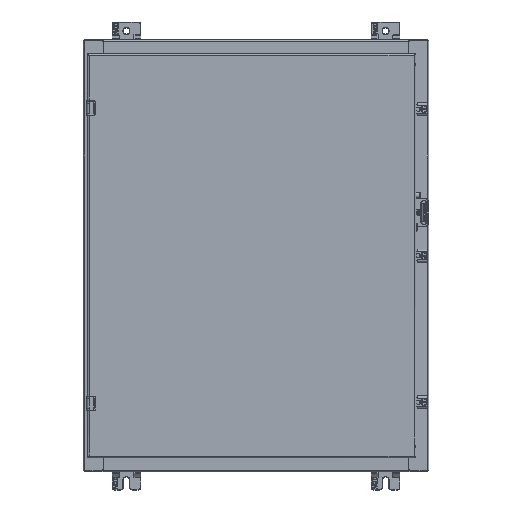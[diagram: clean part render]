
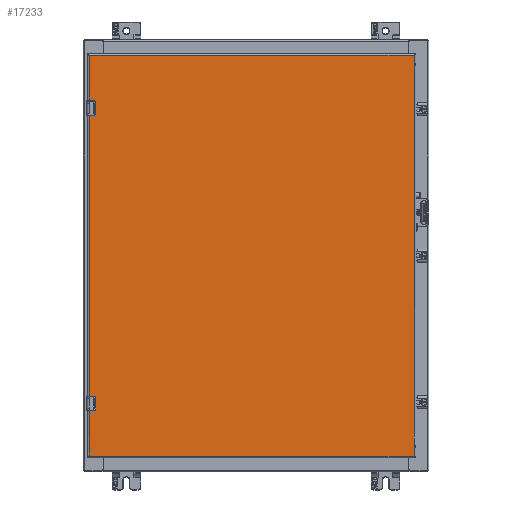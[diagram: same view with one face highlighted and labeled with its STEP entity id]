
A CAD part, top view. The second image highlights one B-rep face of the part: STEP entity #17233.
In plain terms, the highlighted planar face has unit normal (0, 0, 1) as drawn and (0, 1, 0) by its records, which use the part's own axes.
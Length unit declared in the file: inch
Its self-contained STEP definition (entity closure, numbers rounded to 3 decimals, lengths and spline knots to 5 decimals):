
#13534=DIRECTION('',(0.,0.,1.));
#13535=VECTOR('',#13534,22.566);
#13536=CARTESIAN_POINT('',(-13.91438,0.,0.117));
#13537=LINE('',#13536,#13535);
#13620=DIRECTION('',(0.,0.,-1.));
#13621=VECTOR('',#13620,0.3629);
#13622=CARTESIAN_POINT('',(10.59513,0.,22.683));
#13623=LINE('',#13622,#13621);
#13627=DIRECTION('',(-1.,0.,0.));
#13628=VECTOR('',#13627,0.63);
#13629=CARTESIAN_POINT('',(10.56513,0.,22.2901));
#13630=LINE('',#13629,#13628);
#13634=DIRECTION('',(0.,0.,-1.));
#13635=VECTOR('',#13634,0.3629);
#13636=CARTESIAN_POINT('',(9.90513,0.,22.683));
#13637=LINE('',#13636,#13635);
#13641=DIRECTION('',(0.,0.,-1.));
#13642=VECTOR('',#13641,0.3629);
#13643=CARTESIAN_POINT('',(-9.90513,0.,22.683));
#13644=LINE('',#13643,#13642);
#13648=DIRECTION('',(-1.,0.,0.));
#13649=VECTOR('',#13648,0.63);
#13650=CARTESIAN_POINT('',(-9.93513,0.,22.2901));
#13651=LINE('',#13650,#13649);
#13655=DIRECTION('',(0.,0.,-1.));
#13656=VECTOR('',#13655,0.3629);
#13657=CARTESIAN_POINT('',(-10.59513,0.,22.683));
#13658=LINE('',#13657,#13656);
#13662=DIRECTION('',(0.,0.,1.));
#13663=VECTOR('',#13662,22.566);
#13664=CARTESIAN_POINT('',(13.91438,0.,0.117));
#13665=LINE('',#13664,#13663);
#13847=DIRECTION('',(-1.,0.,0.));
#13848=VECTOR('',#13847,27.82875);
#13849=CARTESIAN_POINT('',(13.91438,0.,0.117));
#13850=LINE('',#13849,#13848);
#14813=CARTESIAN_POINT('',(9.93513,0.,22.3201));
#14814=DIRECTION('',(0.,-1.,0.));
#14815=DIRECTION('',(-1.,0.,0.));
#14816=AXIS2_PLACEMENT_3D('',#14813,#14814,#14815);
#14843=CARTESIAN_POINT('',(10.56513,0.,22.3201));
#14844=DIRECTION('',(0.,-1.,0.));
#14845=DIRECTION('',(0.,0.,-1.));
#14846=AXIS2_PLACEMENT_3D('',#14843,#14844,#14845);
#15252=DIRECTION('',(-1.,0.,0.));
#15253=VECTOR('',#15252,19.81025);
#15254=CARTESIAN_POINT('',(9.90513,0.,22.683));
#15255=LINE('',#15254,#15253);
#15298=DIRECTION('',(-1.,0.,0.));
#15299=VECTOR('',#15298,3.31925);
#15300=CARTESIAN_POINT('',(-10.59513,0.,22.683));
#15301=LINE('',#15300,#15299);
#15335=DIRECTION('',(-1.,0.,0.));
#15336=VECTOR('',#15335,3.31925);
#15337=CARTESIAN_POINT('',(13.91438,0.,22.683));
#15338=LINE('',#15337,#15336);
#15416=CARTESIAN_POINT('',(-10.56513,0.,22.3201));
#15417=DIRECTION('',(0.,-1.,0.));
#15418=DIRECTION('',(-1.,0.,0.));
#15419=AXIS2_PLACEMENT_3D('',#15416,#15417,#15418);
#15446=CARTESIAN_POINT('',(-9.93513,0.,22.3201));
#15447=DIRECTION('',(0.,-1.,0.));
#15448=DIRECTION('',(0.,0.,-1.));
#15449=AXIS2_PLACEMENT_3D('',#15446,#15447,#15448);
#16286=CARTESIAN_POINT('',(13.91438,0.,0.117));
#16287=CARTESIAN_POINT('',(-13.91438,0.,0.117));
#16288=VERTEX_POINT('',#16286);
#16289=VERTEX_POINT('',#16287);
#16496=CARTESIAN_POINT('',(-13.91438,0.,22.683));
#16497=VERTEX_POINT('',#16496);
#16506=CARTESIAN_POINT('',(13.91438,0.,22.683));
#16508=VERTEX_POINT('',#16506);
#16635=CARTESIAN_POINT('',(-9.90513,0.,22.683));
#16637=VERTEX_POINT('',#16635);
#16639=CARTESIAN_POINT('',(-10.59513,0.,22.683));
#16641=VERTEX_POINT('',#16639);
#16651=CARTESIAN_POINT('',(10.59513,0.,22.683));
#16653=VERTEX_POINT('',#16651);
#16655=CARTESIAN_POINT('',(9.90513,0.,22.683));
#16657=VERTEX_POINT('',#16655);
#16666=CARTESIAN_POINT('',(-10.59513,0.,22.3201));
#16668=VERTEX_POINT('',#16666);
#16670=CARTESIAN_POINT('',(-10.56513,0.,22.2901));
#16672=VERTEX_POINT('',#16670);
#16690=CARTESIAN_POINT('',(-9.93513,0.,22.2901));
#16692=VERTEX_POINT('',#16690);
#16694=CARTESIAN_POINT('',(-9.90513,0.,22.3201));
#16696=VERTEX_POINT('',#16694);
#16698=CARTESIAN_POINT('',(9.90513,0.,22.3201));
#16700=VERTEX_POINT('',#16698);
#16702=CARTESIAN_POINT('',(9.93513,0.,22.2901));
#16704=VERTEX_POINT('',#16702);
#16722=CARTESIAN_POINT('',(10.56513,0.,22.2901));
#16724=VERTEX_POINT('',#16722);
#16726=CARTESIAN_POINT('',(10.59513,0.,22.3201));
#16728=VERTEX_POINT('',#16726);
#17195=CARTESIAN_POINT('',(14.03138,0.,0.));
#17196=DIRECTION('',(0.,1.,0.));
#17197=DIRECTION('',(-1.,0.,0.));
#17198=AXIS2_PLACEMENT_3D('',#17195,#17196,#17197);
#17199=PLANE('',#17198);
#17201=ORIENTED_EDGE('',*,*,#17200,.T.);
#17203=ORIENTED_EDGE('',*,*,#17202,.T.);
#17205=ORIENTED_EDGE('',*,*,#17204,.T.);
#17207=ORIENTED_EDGE('',*,*,#17206,.F.);
#17209=ORIENTED_EDGE('',*,*,#17208,.T.);
#17211=ORIENTED_EDGE('',*,*,#17210,.F.);
#17213=ORIENTED_EDGE('',*,*,#17212,.F.);
#17215=ORIENTED_EDGE('',*,*,#17214,.T.);
#17217=ORIENTED_EDGE('',*,*,#17216,.T.);
#17219=ORIENTED_EDGE('',*,*,#17218,.F.);
#17221=ORIENTED_EDGE('',*,*,#17220,.T.);
#17223=ORIENTED_EDGE('',*,*,#17222,.F.);
#17225=ORIENTED_EDGE('',*,*,#17224,.F.);
#17227=ORIENTED_EDGE('',*,*,#17226,.T.);
#17228=ORIENTED_EDGE('',*,*,#17185,.F.);
#17230=ORIENTED_EDGE('',*,*,#17229,.F.);
#17231=EDGE_LOOP('',(#17201,#17203,#17205,#17207,#17209,#17211,#17213,#17215,
#17217,#17219,#17221,#17223,#17225,#17227,#17228,#17230));
#17232=FACE_OUTER_BOUND('',#17231,.F.);
#14817=CIRCLE('',#14816,0.03);
#14847=CIRCLE('',#14846,0.03);
#15420=CIRCLE('',#15419,0.03);
#15450=CIRCLE('',#15449,0.03);
#17185=EDGE_CURVE('',#16289,#16497,#13537,.T.);
#17200=EDGE_CURVE('',#16288,#16508,#13665,.T.);
#17202=EDGE_CURVE('',#16508,#16653,#15338,.T.);
#17204=EDGE_CURVE('',#16653,#16728,#13623,.T.);
#17206=EDGE_CURVE('',#16724,#16728,#14847,.T.);
#17208=EDGE_CURVE('',#16724,#16704,#13630,.T.);
#17210=EDGE_CURVE('',#16700,#16704,#14817,.T.);
#17212=EDGE_CURVE('',#16657,#16700,#13637,.T.);
#17214=EDGE_CURVE('',#16657,#16637,#15255,.T.);
#17216=EDGE_CURVE('',#16637,#16696,#13644,.T.);
#17218=EDGE_CURVE('',#16692,#16696,#15450,.T.);
#17220=EDGE_CURVE('',#16692,#16672,#13651,.T.);
#17222=EDGE_CURVE('',#16668,#16672,#15420,.T.);
#17224=EDGE_CURVE('',#16641,#16668,#13658,.T.);
#17226=EDGE_CURVE('',#16641,#16497,#15301,.T.);
#17229=EDGE_CURVE('',#16288,#16289,#13850,.T.);
#17233=ADVANCED_FACE('',(#17232),#17199,.T.);
